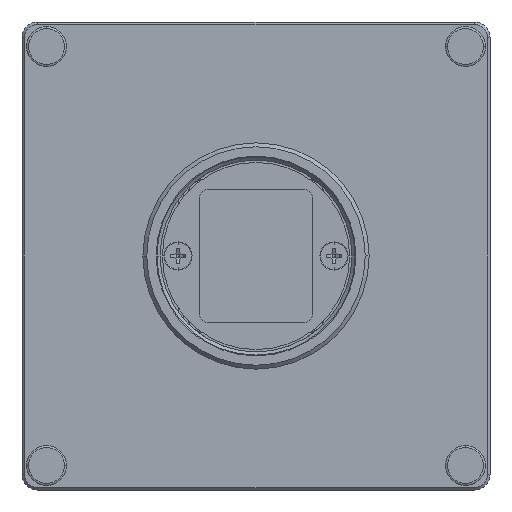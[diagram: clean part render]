
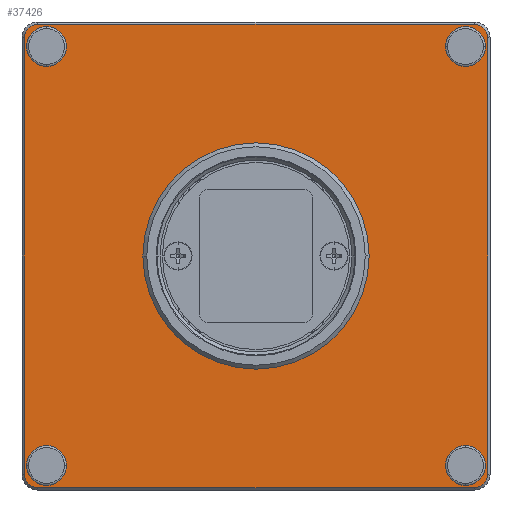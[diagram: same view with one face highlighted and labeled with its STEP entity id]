
A CAD part, left-side view. The second image highlights one B-rep face of the part: STEP entity #37426.
In plain terms, the highlighted planar face has unit normal (-1, 0, 0).
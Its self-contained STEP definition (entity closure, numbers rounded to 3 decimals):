
#2967=DIRECTION('',(0.,0.,1.));
#2968=VECTOR('',#2967,56.);
#2969=CARTESIAN_POINT('',(0.,29.7,-28.));
#2970=LINE('',#2969,#2968);
#2971=CARTESIAN_POINT('',(0.,28.,28.));
#2972=DIRECTION('',(1.,0.,0.));
#2973=DIRECTION('',(0.,1.,0.));
#2974=AXIS2_PLACEMENT_3D('',#2971,#2972,#2973);
#2976=DIRECTION('',(0.,-1.,0.));
#2977=VECTOR('',#2976,56.);
#2978=CARTESIAN_POINT('',(0.,28.,29.7));
#2979=LINE('',#2978,#2977);
#2980=CARTESIAN_POINT('',(0.,-28.,28.));
#2981=DIRECTION('',(1.,0.,0.));
#2982=DIRECTION('',(0.,0.,1.));
#2983=AXIS2_PLACEMENT_3D('',#2980,#2981,#2982);
#2985=DIRECTION('',(0.,0.,-1.));
#2986=VECTOR('',#2985,56.);
#2987=CARTESIAN_POINT('',(0.,-29.7,28.));
#2988=LINE('',#2987,#2986);
#2989=CARTESIAN_POINT('',(0.,-28.,-28.));
#2990=DIRECTION('',(1.,0.,0.));
#2991=DIRECTION('',(0.,-1.,0.));
#2992=AXIS2_PLACEMENT_3D('',#2989,#2990,#2991);
#2994=DIRECTION('',(0.,1.,0.));
#2995=VECTOR('',#2994,56.);
#2996=CARTESIAN_POINT('',(0.,-28.,-29.7));
#2997=LINE('',#2996,#2995);
#2998=CARTESIAN_POINT('',(0.,28.,-28.));
#2999=DIRECTION('',(1.,0.,0.));
#3000=DIRECTION('',(0.,0.,-1.));
#3001=AXIS2_PLACEMENT_3D('',#2998,#2999,#3000);
#3003=CARTESIAN_POINT('',(0.,-26.85,-26.85));
#3004=DIRECTION('',(-1.,0.,0.));
#3005=DIRECTION('',(0.,0.,-1.));
#3006=AXIS2_PLACEMENT_3D('',#3003,#3004,#3005);
#3008=CARTESIAN_POINT('',(0.,-26.85,-26.85));
#3009=DIRECTION('',(-1.,0.,0.));
#3010=DIRECTION('',(0.,0.,1.));
#3011=AXIS2_PLACEMENT_3D('',#3008,#3009,#3010);
#3013=CARTESIAN_POINT('',(0.,-26.85,26.85));
#3014=DIRECTION('',(-1.,0.,0.));
#3015=DIRECTION('',(0.,0.,-1.));
#3016=AXIS2_PLACEMENT_3D('',#3013,#3014,#3015);
#3018=CARTESIAN_POINT('',(0.,-26.85,26.85));
#3019=DIRECTION('',(-1.,0.,0.));
#3020=DIRECTION('',(0.,0.,1.));
#3021=AXIS2_PLACEMENT_3D('',#3018,#3019,#3020);
#3023=CARTESIAN_POINT('',(0.,26.85,26.85));
#3024=DIRECTION('',(-1.,0.,0.));
#3025=DIRECTION('',(0.,0.,-1.));
#3026=AXIS2_PLACEMENT_3D('',#3023,#3024,#3025);
#3028=CARTESIAN_POINT('',(0.,26.85,26.85));
#3029=DIRECTION('',(-1.,0.,0.));
#3030=DIRECTION('',(0.,0.,1.));
#3031=AXIS2_PLACEMENT_3D('',#3028,#3029,#3030);
#3033=CARTESIAN_POINT('',(0.,26.85,-26.85));
#3034=DIRECTION('',(-1.,0.,0.));
#3035=DIRECTION('',(0.,0.,-1.));
#3036=AXIS2_PLACEMENT_3D('',#3033,#3034,#3035);
#3038=CARTESIAN_POINT('',(0.,26.85,-26.85));
#3039=DIRECTION('',(-1.,0.,0.));
#3040=DIRECTION('',(0.,0.,1.));
#3041=AXIS2_PLACEMENT_3D('',#3038,#3039,#3040);
#3043=CARTESIAN_POINT('',(0.,0.,0.));
#3044=DIRECTION('',(-1.,0.,0.));
#3045=DIRECTION('',(0.,1.,0.));
#3046=AXIS2_PLACEMENT_3D('',#3043,#3044,#3045);
#3048=CARTESIAN_POINT('',(0.,0.,0.));
#3049=DIRECTION('',(-1.,0.,0.));
#3050=DIRECTION('',(0.,-1.,0.));
#3051=AXIS2_PLACEMENT_3D('',#3048,#3049,#3050);
#31290=CARTESIAN_POINT('',(0.,-29.7,28.));
#31291=VERTEX_POINT('',#31290);
#31292=CARTESIAN_POINT('',(0.,-28.,29.7));
#31293=VERTEX_POINT('',#31292);
#31302=CARTESIAN_POINT('',(0.,-28.,-29.7));
#31303=VERTEX_POINT('',#31302);
#31304=CARTESIAN_POINT('',(0.,-29.7,-28.));
#31305=VERTEX_POINT('',#31304);
#31310=CARTESIAN_POINT('',(0.,29.7,-28.));
#31311=VERTEX_POINT('',#31310);
#31312=CARTESIAN_POINT('',(0.,28.,-29.7));
#31313=VERTEX_POINT('',#31312);
#31318=CARTESIAN_POINT('',(0.,28.,29.7));
#31319=VERTEX_POINT('',#31318);
#31320=CARTESIAN_POINT('',(0.,29.7,28.));
#31321=VERTEX_POINT('',#31320);
#31322=CARTESIAN_POINT('',(0.,-26.85,-29.4));
#31323=CARTESIAN_POINT('',(0.,-26.85,-24.3));
#31324=VERTEX_POINT('',#31322);
#31325=VERTEX_POINT('',#31323);
#31326=CARTESIAN_POINT('',(0.,-26.85,24.3));
#31327=CARTESIAN_POINT('',(0.,-26.85,29.4));
#31328=VERTEX_POINT('',#31326);
#31329=VERTEX_POINT('',#31327);
#31330=CARTESIAN_POINT('',(0.,26.85,24.3));
#31331=CARTESIAN_POINT('',(0.,26.85,29.4));
#31332=VERTEX_POINT('',#31330);
#31333=VERTEX_POINT('',#31331);
#31334=CARTESIAN_POINT('',(0.,26.85,-29.4));
#31335=CARTESIAN_POINT('',(0.,26.85,-24.3));
#31336=VERTEX_POINT('',#31334);
#31337=VERTEX_POINT('',#31335);
#31338=CARTESIAN_POINT('',(0.,14.5,0.));
#31339=CARTESIAN_POINT('',(0.,-14.5,0.));
#31340=VERTEX_POINT('',#31338);
#31341=VERTEX_POINT('',#31339);
#37381=CARTESIAN_POINT('',(0.,0.,0.));
#37382=DIRECTION('',(1.,0.,0.));
#37383=DIRECTION('',(0.,-1.,0.));
#37384=AXIS2_PLACEMENT_3D('',#37381,#37382,#37383);
#37385=PLANE('',#37384);
#37386=ORIENTED_EDGE('',*,*,#37308,.T.);
#37387=ORIENTED_EDGE('',*,*,#37361,.T.);
#37388=ORIENTED_EDGE('',*,*,#37372,.T.);
#37389=ORIENTED_EDGE('',*,*,#37156,.T.);
#37390=ORIENTED_EDGE('',*,*,#37172,.T.);
#37391=ORIENTED_EDGE('',*,*,#37225,.T.);
#37392=ORIENTED_EDGE('',*,*,#37240,.T.);
#37393=ORIENTED_EDGE('',*,*,#37293,.T.);
#37394=EDGE_LOOP('',(#37386,#37387,#37388,#37389,#37390,#37391,#37392,#37393));
#37395=FACE_OUTER_BOUND('',#37394,.F.);
#37397=ORIENTED_EDGE('',*,*,#37396,.T.);
#37399=ORIENTED_EDGE('',*,*,#37398,.T.);
#37400=EDGE_LOOP('',(#37397,#37399));
#37401=FACE_BOUND('',#37400,.F.);
#37403=ORIENTED_EDGE('',*,*,#37402,.T.);
#37405=ORIENTED_EDGE('',*,*,#37404,.T.);
#37406=EDGE_LOOP('',(#37403,#37405));
#37407=FACE_BOUND('',#37406,.F.);
#37409=ORIENTED_EDGE('',*,*,#37408,.T.);
#37411=ORIENTED_EDGE('',*,*,#37410,.T.);
#37412=EDGE_LOOP('',(#37409,#37411));
#37413=FACE_BOUND('',#37412,.F.);
#37415=ORIENTED_EDGE('',*,*,#37414,.T.);
#37417=ORIENTED_EDGE('',*,*,#37416,.T.);
#37418=EDGE_LOOP('',(#37415,#37417));
#37419=FACE_BOUND('',#37418,.F.);
#37421=ORIENTED_EDGE('',*,*,#37420,.T.);
#37423=ORIENTED_EDGE('',*,*,#37422,.T.);
#37424=EDGE_LOOP('',(#37421,#37423));
#37425=FACE_BOUND('',#37424,.F.);
#37426=ADVANCED_FACE('',(#37395,#37401,#37407,#37413,#37419,#37425),#37385,.F.);
#2975=CIRCLE('',#2974,1.7);
#2984=CIRCLE('',#2983,1.7);
#2993=CIRCLE('',#2992,1.7);
#3002=CIRCLE('',#3001,1.7);
#3007=CIRCLE('',#3006,2.55);
#3012=CIRCLE('',#3011,2.55);
#3017=CIRCLE('',#3016,2.55);
#3022=CIRCLE('',#3021,2.55);
#3027=CIRCLE('',#3026,2.55);
#3032=CIRCLE('',#3031,2.55);
#3037=CIRCLE('',#3036,2.55);
#3042=CIRCLE('',#3041,2.55);
#3047=CIRCLE('',#3046,14.5);
#3052=CIRCLE('',#3051,14.5);
#37156=EDGE_CURVE('',#31293,#31291,#2984,.T.);
#37172=EDGE_CURVE('',#31291,#31305,#2988,.T.);
#37225=EDGE_CURVE('',#31305,#31303,#2993,.T.);
#37240=EDGE_CURVE('',#31303,#31313,#2997,.T.);
#37293=EDGE_CURVE('',#31313,#31311,#3002,.T.);
#37308=EDGE_CURVE('',#31311,#31321,#2970,.T.);
#37361=EDGE_CURVE('',#31321,#31319,#2975,.T.);
#37372=EDGE_CURVE('',#31319,#31293,#2979,.T.);
#37396=EDGE_CURVE('',#31324,#31325,#3007,.T.);
#37398=EDGE_CURVE('',#31325,#31324,#3012,.T.);
#37402=EDGE_CURVE('',#31328,#31329,#3017,.T.);
#37404=EDGE_CURVE('',#31329,#31328,#3022,.T.);
#37408=EDGE_CURVE('',#31332,#31333,#3027,.T.);
#37410=EDGE_CURVE('',#31333,#31332,#3032,.T.);
#37414=EDGE_CURVE('',#31336,#31337,#3037,.T.);
#37416=EDGE_CURVE('',#31337,#31336,#3042,.T.);
#37420=EDGE_CURVE('',#31340,#31341,#3047,.T.);
#37422=EDGE_CURVE('',#31341,#31340,#3052,.T.);
